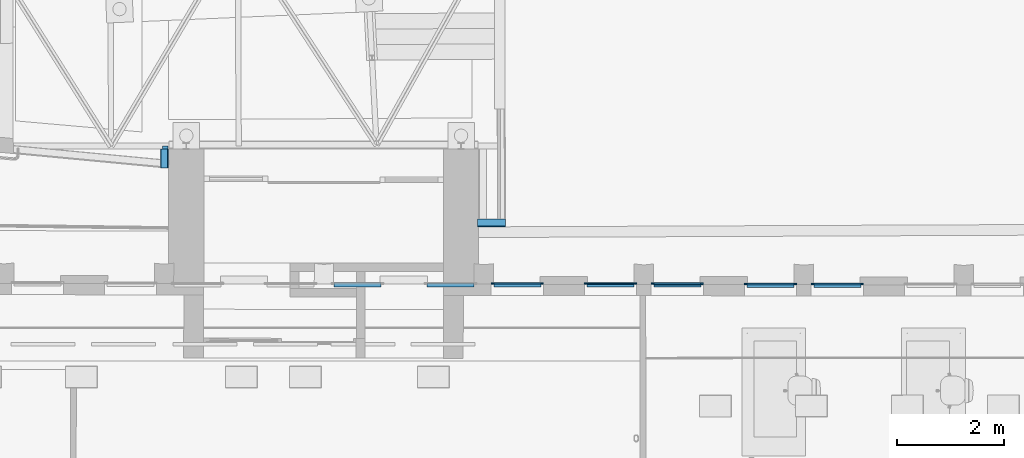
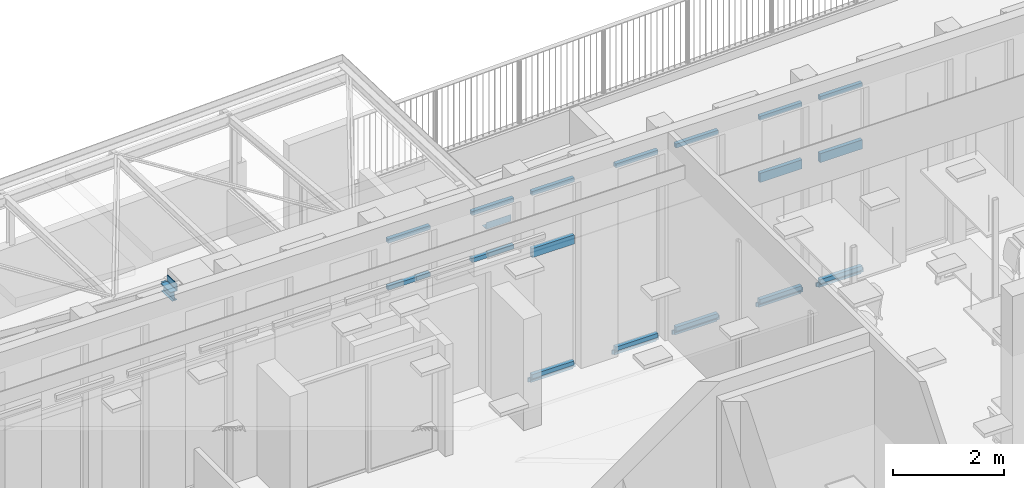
# One storey, part 18 of 128: 37 members, 3 beams, 12 elements without a shape of their own.
"""IFC2X3 building model written with IfcOpenShell, lengths in metres."""

from ifc_helpers import new_model, entity, si_unit, converted_unit, derived_unit, direction, frame, frame_2d, origin, origin_2d_with_axis, place, context, subcontext, project, spatial, polyline, circle_curve, parameter, trimmed, segment, composite_curve, rectangle, i_section, outline, extrude, source, transform, mapped, material, type_object, type_shapes, element, aggregate, save


model = new_model("IFC2X3")

# Units and contexts
model_context = context("Model", 3, precision=1e-05, world=origin(), true_north=direction((6.123031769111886e-17, 1.0)))
body_context = subcontext(model_context, "Body", "Model", "MODEL_VIEW")
ifc_project = project(units=[si_unit("LENGTHUNIT", "METRE"), si_unit("AREAUNIT", "SQUARE_METRE"), converted_unit("PLANEANGLEUNIT", "DEGREE", entity("IfcPlaneAngleMeasure", 0.017453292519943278), si_unit("PLANEANGLEUNIT", "RADIAN"), dimensions=[0, 0, 0, 0, 0, 0, 0]), derived_unit("THERMALTRANSMITTANCEUNIT", [(si_unit("MASSUNIT", "GRAM", prefix="KILO"), 1), (si_unit("THERMODYNAMICTEMPERATUREUNIT", "KELVIN"), -1), (si_unit("TIMEUNIT", "SECOND"), -3)])], contexts=[model_context])

# Site, building, storey
site_placement = place(None, origin())
site = spatial("IfcSite", under=ifc_project, at=site_placement, Name="Default", CompositionType="ELEMENT")
building_placement = place(site_placement, origin())
building = spatial("IfcBuilding", under=site, at=building_placement, CompositionType="ELEMENT")
storey_placement = place(building_placement, origin())
storey = spatial("IfcBuildingStorey", under=building, at=storey_placement, Name="00_RDC CAF", CompositionType="ELEMENT", Elevation=2.4982504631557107e-13)

# Curtain wall, member
curtain_wall_type_1 = type_object("IfcCurtainWallType", Name="Mur-rideau:FRi.Ext.30mm RDC", PredefinedType="NOTDEFINED")
curtain_wall_1_placement = place(storey_placement, origin())
curtain_wall_1 = element("IfcCurtainWall", 1, at=curtain_wall_1_placement, inside=storey, type_object=curtain_wall_type_1, Name="Mur-rideau:FRi.Ext.30mm RDC", ObjectType="Mur-rideau:FRi.Ext.30mm RDC")
ifc_material_1 = material(Name="ARC - M.Ex - Blanc")
member_type_1 = type_object("IfcMemberType", Name="Meneau rectangulaire:F.Ri.M_Ext_Rectangulaire_200x80mm", PredefinedType="MULLION", material=ifc_material_1)
shared_shape_1 = source(origin(), body_context, "Body", "SweptSolid", [
    extrude(rectangle(XDim=0.2, YDim=0.07999999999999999, at=origin_2d_with_axis()), frame((0.0, 0.025, -0.8799999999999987), z_axis=(0.0, 0.0, 1.0), x_axis=(-1.0, 0.0, 0.0)), (0.0, 0.0, 1.0), 0.8799999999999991),
])
type_shapes(member_type_1, [shared_shape_1])
member_1_placement = place(curtain_wall_1_placement, frame((31.815992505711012, 144.1441369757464, 2.7689999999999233), z_axis=(1.0, 0.0, 0.0), x_axis=(0.0, 0.0, 1.0)))
member_1 = element("IfcMember", 2, at=member_1_placement, type_object=member_type_1, material=ifc_material_1, Name="Meneau rectangulaire:F.Ri.M_Ext_Rectangulaire_200x80mm", ObjectType="Meneau rectangulaire:F.Ri.M_Ext_Rectangulaire_200x80mm", context=body_context, shape_type="MappedRepresentation", body=[
    mapped(shared_shape_1, transform((0.0, 0.0, 0.0), scale=1.0)),
])

curtain_wall_2_placement = place(storey_placement, origin())
curtain_wall_2 = element("IfcCurtainWall", 3, at=curtain_wall_2_placement, inside=storey, type_object=curtain_wall_type_1, Name="Mur-rideau:FRi.Ext.30mm RDC", ObjectType="Mur-rideau:FRi.Ext.30mm RDC")
member_2_placement = place(curtain_wall_2_placement, frame((36.56235782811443, 144.13667239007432, 2.7689999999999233), z_axis=(1.0, 0.0, 0.0), x_axis=(0.0, 0.0, 1.0)))
member_2 = element("IfcMember", 4, at=member_2_placement, type_object=member_type_1, material=ifc_material_1, Name="Meneau rectangulaire:F.Ri.M_Ext_Rectangulaire_200x80mm", ObjectType="Meneau rectangulaire:F.Ri.M_Ext_Rectangulaire_200x80mm", context=body_context, shape_type="MappedRepresentation", body=[
    mapped(shared_shape_1, transform((0.0, 0.0, 0.0), scale=1.0)),
])

curtain_wall_3_placement = place(storey_placement, origin())
curtain_wall_3 = element("IfcCurtainWall", 5, at=curtain_wall_3_placement, inside=storey, type_object=curtain_wall_type_1, Name="Mur-rideau:FRi.Ext.30mm RDC", ObjectType="Mur-rideau:FRi.Ext.30mm RDC")
member_3_placement = place(curtain_wall_3_placement, frame((37.815979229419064, 144.13470082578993, 2.7689999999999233), z_axis=(1.0, 0.0, 0.0), x_axis=(0.0, 0.0, 1.0)))
member_3 = element("IfcMember", 6, at=member_3_placement, type_object=member_type_1, material=ifc_material_1, Name="Meneau rectangulaire:F.Ri.M_Ext_Rectangulaire_200x80mm", ObjectType="Meneau rectangulaire:F.Ri.M_Ext_Rectangulaire_200x80mm", context=body_context, shape_type="MappedRepresentation", body=[
    mapped(shared_shape_1, transform((0.0, 0.0, 0.0), scale=1.0)),
])

# Member
member_type_2 = type_object("IfcMemberType", Name="Meneau rectangulaire:F.Ri.M_Ext_Rectangulaire_90x80mm", PredefinedType="MULLION", material=ifc_material_1)
shared_shape_2 = source(origin(), body_context, "Body", "SweptSolid", [
    extrude(rectangle(XDim=0.09, YDim=0.07999999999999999, at=origin_2d_with_axis()), frame((-0.045, 0.025, -0.8799999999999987), z_axis=(0.0, 0.0, 1.0), x_axis=(-1.0, 0.0, 0.0)), (0.0, 0.0, 1.0), 0.8799999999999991),
])
type_shapes(member_type_2, [shared_shape_2])
member_4_placement = place(curtain_wall_1_placement, frame((31.815992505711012, 144.1441369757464, 4.127999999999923), z_axis=(1.0, 0.0, 0.0), x_axis=(0.0, 0.0, 1.0)))
member_4 = element("IfcMember", 7, at=member_4_placement, type_object=member_type_2, material=ifc_material_1, Name="Meneau rectangulaire:F.Ri.M_Ext_Rectangulaire_90x80mm", ObjectType="Meneau rectangulaire:F.Ri.M_Ext_Rectangulaire_90x80mm", context=body_context, shape_type="MappedRepresentation", body=[
    mapped(shared_shape_2, transform((0.0, 0.0, 0.0), scale=1.0)),
])

# Curtain wall, member
curtain_wall_4_placement = place(storey_placement, origin())
curtain_wall_4 = element("IfcCurtainWall", 8, at=curtain_wall_4_placement, inside=storey, type_object=curtain_wall_type_1, Name="Mur-rideau:FRi.Ext.30mm RDC", ObjectType="Mur-rideau:FRi.Ext.30mm RDC")
member_5_placement = place(curtain_wall_4_placement, frame((33.5623644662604, 144.14139046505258, 4.127999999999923), z_axis=(1.0, 0.0, 0.0), x_axis=(0.0, 0.0, 1.0)))
member_5 = element("IfcMember", 9, at=member_5_placement, type_object=member_type_2, material=ifc_material_1, Name="Meneau rectangulaire:F.Ri.M_Ext_Rectangulaire_90x80mm", ObjectType="Meneau rectangulaire:F.Ri.M_Ext_Rectangulaire_90x80mm", context=body_context, shape_type="MappedRepresentation", body=[
    mapped(shared_shape_2, transform((0.0, 0.0, 0.0), scale=1.0)),
])

curtain_wall_5_placement = place(storey_placement, origin())
curtain_wall_5 = element("IfcCurtainWall", 10, at=curtain_wall_5_placement, inside=storey, type_object=curtain_wall_type_1, Name="Mur-rideau:FRi.Ext.30mm RDC", ObjectType="Mur-rideau:FRi.Ext.30mm RDC")
member_6_placement = place(curtain_wall_5_placement, frame((34.81598586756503, 144.13941890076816, 4.127999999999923), z_axis=(1.0, 0.0, 0.0), x_axis=(0.0, 0.0, 1.0)))
member_6 = element("IfcMember", 11, at=member_6_placement, type_object=member_type_2, material=ifc_material_1, Name="Meneau rectangulaire:F.Ri.M_Ext_Rectangulaire_90x80mm", ObjectType="Meneau rectangulaire:F.Ri.M_Ext_Rectangulaire_90x80mm", context=body_context, shape_type="MappedRepresentation", body=[
    mapped(shared_shape_2, transform((0.0, 0.0, 0.0), scale=1.0)),
])

# Member
member_7_placement = place(curtain_wall_2_placement, frame((36.56235782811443, 144.13667239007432, 4.127999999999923), z_axis=(1.0, 0.0, 0.0), x_axis=(0.0, 0.0, 1.0)))
member_7 = element("IfcMember", 12, at=member_7_placement, type_object=member_type_2, material=ifc_material_1, Name="Meneau rectangulaire:F.Ri.M_Ext_Rectangulaire_90x80mm", ObjectType="Meneau rectangulaire:F.Ri.M_Ext_Rectangulaire_90x80mm", context=body_context, shape_type="MappedRepresentation", body=[
    mapped(shared_shape_2, transform((0.0, 0.0, 0.0), scale=1.0)),
])

member_8_placement = place(curtain_wall_3_placement, frame((37.815979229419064, 144.13470082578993, 4.127999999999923), z_axis=(1.0, 0.0, 0.0), x_axis=(0.0, 0.0, 1.0)))
member_8 = element("IfcMember", 13, at=member_8_placement, type_object=member_type_2, material=ifc_material_1, Name="Meneau rectangulaire:F.Ri.M_Ext_Rectangulaire_90x80mm", ObjectType="Meneau rectangulaire:F.Ri.M_Ext_Rectangulaire_90x80mm", context=body_context, shape_type="MappedRepresentation", body=[
    mapped(shared_shape_2, transform((0.0, 0.0, 0.0), scale=1.0)),
])

# Curtain wall, member
curtain_wall_6_placement = place(storey_placement, origin())
curtain_wall_6 = element("IfcCurtainWall", 14, at=curtain_wall_6_placement, inside=storey, type_object=curtain_wall_type_1, Name="Mur-rideau:FRi.Ext.30mm RDC", ObjectType="Mur-rideau:FRi.Ext.30mm RDC")
member_9_placement = place(curtain_wall_6_placement, frame((28.815999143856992, 144.1441369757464, 4.127999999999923), z_axis=(1.0, 0.0, 0.0), x_axis=(0.0, 0.0, 1.0)))
member_9 = element("IfcMember", 15, at=member_9_placement, type_object=member_type_2, material=ifc_material_1, Name="Meneau rectangulaire:F.Ri.M_Ext_Rectangulaire_90x80mm", ObjectType="Meneau rectangulaire:F.Ri.M_Ext_Rectangulaire_90x80mm", context=body_context, shape_type="MappedRepresentation", body=[
    mapped(shared_shape_2, transform((0.0, 0.0, 0.0), scale=1.0)),
])

curtain_wall_7_placement = place(storey_placement, origin())
curtain_wall_7 = element("IfcCurtainWall", 16, at=curtain_wall_7_placement, inside=storey, type_object=curtain_wall_type_1, Name="Mur-rideau:FRi.Ext.30mm RDC", ObjectType="Mur-rideau:FRi.Ext.30mm RDC")
member_10_placement = place(curtain_wall_7_placement, frame((30.562371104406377, 144.14139046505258, 4.127999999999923), z_axis=(1.0, 0.0, 0.0), x_axis=(0.0, 0.0, 1.0)))
member_10 = element("IfcMember", 17, at=member_10_placement, type_object=member_type_2, material=ifc_material_1, Name="Meneau rectangulaire:F.Ri.M_Ext_Rectangulaire_90x80mm", ObjectType="Meneau rectangulaire:F.Ri.M_Ext_Rectangulaire_90x80mm", context=body_context, shape_type="MappedRepresentation", body=[
    mapped(shared_shape_2, transform((0.0, 0.0, 0.0), scale=1.0)),
])

# Member
member_type_3 = type_object("IfcMemberType", Name="Meneau rectangulaire:F.Ri.M_Ext_Rectangulaire_90x80mm", PredefinedType="MULLION", material=ifc_material_1)
shared_shape_3 = source(origin(), body_context, "Body", "SweptSolid", [
    extrude(rectangle(XDim=0.09, YDim=0.07999999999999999, at=origin_2d_with_axis()), frame((-0.045, 0.025, -0.8799999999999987), z_axis=(0.0, 0.0, 1.0), x_axis=(-1.0, 0.0, 0.0)), (0.0, 0.0, 1.0), 0.8799999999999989),
])
type_shapes(member_type_3, [shared_shape_3])
member_11_placement = place(curtain_wall_1_placement, frame((30.935993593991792, 144.14552094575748, 0.0), z_axis=(-1.0, 0.0, 0.0), x_axis=(0.0, 0.0, -1.0)))
member_11 = element("IfcMember", 18, at=member_11_placement, type_object=member_type_3, material=ifc_material_1, Name="Meneau rectangulaire:F.Ri.M_Ext_Rectangulaire_90x80mm", ObjectType="Meneau rectangulaire:F.Ri.M_Ext_Rectangulaire_90x80mm", context=body_context, shape_type="MappedRepresentation", body=[
    mapped(shared_shape_3, transform((0.0, 0.0, 0.0), scale=1.0)),
])

aggregate(curtain_wall_1, [member_1, member_4, member_11])

member_12_placement = place(curtain_wall_4_placement, frame((32.68236555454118, 144.14277443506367, 0.0), z_axis=(-1.0, 0.0, 0.0), x_axis=(0.0, 0.0, -1.0)))
member_12 = element("IfcMember", 19, at=member_12_placement, type_object=member_type_3, material=ifc_material_1, Name="Meneau rectangulaire:F.Ri.M_Ext_Rectangulaire_90x80mm", ObjectType="Meneau rectangulaire:F.Ri.M_Ext_Rectangulaire_90x80mm", context=body_context, shape_type="MappedRepresentation", body=[
    mapped(shared_shape_3, transform((0.0, 0.0, 0.0), scale=1.0)),
])

aggregate(curtain_wall_4, [member_5, member_12])

member_13_placement = place(curtain_wall_5_placement, frame((33.93598695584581, 144.14080287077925, 0.0), z_axis=(-1.0, 0.0, 0.0), x_axis=(0.0, 0.0, -1.0)))
member_13 = element("IfcMember", 20, at=member_13_placement, type_object=member_type_3, material=ifc_material_1, Name="Meneau rectangulaire:F.Ri.M_Ext_Rectangulaire_90x80mm", ObjectType="Meneau rectangulaire:F.Ri.M_Ext_Rectangulaire_90x80mm", context=body_context, shape_type="MappedRepresentation", body=[
    mapped(shared_shape_3, transform((0.0, 0.0, 0.0), scale=1.0)),
])

aggregate(curtain_wall_5, [member_6, member_13])

member_14_placement = place(curtain_wall_2_placement, frame((35.6823589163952, 144.13805636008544, 0.0), z_axis=(-1.0, 0.0, 0.0), x_axis=(0.0, 0.0, -1.0)))
member_14 = element("IfcMember", 21, at=member_14_placement, type_object=member_type_3, material=ifc_material_1, Name="Meneau rectangulaire:F.Ri.M_Ext_Rectangulaire_90x80mm", ObjectType="Meneau rectangulaire:F.Ri.M_Ext_Rectangulaire_90x80mm", context=body_context, shape_type="MappedRepresentation", body=[
    mapped(shared_shape_3, transform((0.0, 0.0, 0.0), scale=1.0)),
])

aggregate(curtain_wall_2, [member_2, member_7, member_14])

member_15_placement = place(curtain_wall_3_placement, frame((36.93598031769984, 144.13608479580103, 0.0), z_axis=(-1.0, 0.0, 0.0), x_axis=(0.0, 0.0, -1.0)))
member_15 = element("IfcMember", 22, at=member_15_placement, type_object=member_type_3, material=ifc_material_1, Name="Meneau rectangulaire:F.Ri.M_Ext_Rectangulaire_90x80mm", ObjectType="Meneau rectangulaire:F.Ri.M_Ext_Rectangulaire_90x80mm", context=body_context, shape_type="MappedRepresentation", body=[
    mapped(shared_shape_3, transform((0.0, 0.0, 0.0), scale=1.0)),
])

aggregate(curtain_wall_3, [member_3, member_8, member_15])

member_16_placement = place(curtain_wall_6_placement, frame((27.93600023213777, 144.14552094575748, 3.0), z_axis=(-1.0, 0.0, 0.0), x_axis=(0.0, 0.0, -1.0)))
member_16 = element("IfcMember", 23, at=member_16_placement, type_object=member_type_3, material=ifc_material_1, Name="Meneau rectangulaire:F.Ri.M_Ext_Rectangulaire_90x80mm", ObjectType="Meneau rectangulaire:F.Ri.M_Ext_Rectangulaire_90x80mm", context=body_context, shape_type="MappedRepresentation", body=[
    mapped(shared_shape_3, transform((0.0, 0.0, 0.0), scale=1.0)),
])

aggregate(curtain_wall_6, [member_9, member_16])

member_17_placement = place(curtain_wall_7_placement, frame((29.682372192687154, 144.14277443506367, 3.0), z_axis=(-1.0, 0.0, 0.0), x_axis=(0.0, 0.0, -1.0)))
member_17 = element("IfcMember", 24, at=member_17_placement, type_object=member_type_3, material=ifc_material_1, Name="Meneau rectangulaire:F.Ri.M_Ext_Rectangulaire_90x80mm", ObjectType="Meneau rectangulaire:F.Ri.M_Ext_Rectangulaire_90x80mm", context=body_context, shape_type="MappedRepresentation", body=[
    mapped(shared_shape_3, transform((0.0, 0.0, 0.0), scale=1.0)),
])

aggregate(curtain_wall_7, [member_10, member_17])

# Curtain wall, member
curtain_wall_type_2 = type_object("IfcCurtainWallType", Name="Mur-rideau:FRi.Ext.30mm Etages", PredefinedType="NOTDEFINED")
curtain_wall_8_placement = place(storey_placement, origin())
curtain_wall_8 = element("IfcCurtainWall", 25, at=curtain_wall_8_placement, inside=storey, type_object=curtain_wall_type_2, Name="Mur-rideau:FRi.Ext.30mm Etages", ObjectType="Mur-rideau:FRi.Ext.30mm Etages")
member_type_4 = type_object("IfcMemberType", Name="Meneau rectangulaire:F.Ri.M_Ext_Rectangulaire_50x30mm", PredefinedType="MULLION", material=ifc_material_1)
shared_shape_4 = source(origin(), body_context, "Body", "SweptSolid", [
    extrude(rectangle(XDim=0.05, YDim=0.029999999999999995, at=origin_2d_with_axis()), frame((0.0, 0.0, -0.8800000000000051), z_axis=(0.0, 0.0, 1.0), x_axis=(-1.0, 0.0, 0.0)), (0.0, 0.0, 1.0), 0.8800000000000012),
])
type_shapes(member_type_4, [shared_shape_4])
member_18_placement = place(curtain_wall_8_placement, frame((31.81599250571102, 144.14413697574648, -0.087000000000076), z_axis=(1.0, 0.0, 0.0), x_axis=(0.0, 0.0, 1.0)))
member_18 = element("IfcMember", 26, at=member_18_placement, type_object=member_type_4, material=ifc_material_1, Name="Meneau rectangulaire:F.Ri.M_Ext_Rectangulaire_50x30mm", ObjectType="Meneau rectangulaire:F.Ri.M_Ext_Rectangulaire_50x30mm", context=body_context, shape_type="MappedRepresentation", body=[
    mapped(shared_shape_4, transform((0.0, 0.0, 0.0), scale=1.0)),
])

curtain_wall_9_placement = place(storey_placement, origin())
curtain_wall_9 = element("IfcCurtainWall", 27, at=curtain_wall_9_placement, inside=storey, type_object=curtain_wall_type_2, Name="Mur-rideau:FRi.Ext.30mm Etages", ObjectType="Mur-rideau:FRi.Ext.30mm Etages")
member_19_placement = place(curtain_wall_9_placement, frame((34.81598586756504, 144.13941890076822, -0.087000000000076), z_axis=(1.0, 0.0, 0.0), x_axis=(0.0, 0.0, 1.0)))
member_19 = element("IfcMember", 28, at=member_19_placement, type_object=member_type_4, material=ifc_material_1, Name="Meneau rectangulaire:F.Ri.M_Ext_Rectangulaire_50x30mm", ObjectType="Meneau rectangulaire:F.Ri.M_Ext_Rectangulaire_50x30mm", context=body_context, shape_type="MappedRepresentation", body=[
    mapped(shared_shape_4, transform((0.0, 0.0, 0.0), scale=1.0)),
])

curtain_wall_10_placement = place(storey_placement, origin())
curtain_wall_10 = element("IfcCurtainWall", 29, at=curtain_wall_10_placement, inside=storey, type_object=curtain_wall_type_2, Name="Mur-rideau:FRi.Ext.30mm Etages", ObjectType="Mur-rideau:FRi.Ext.30mm Etages")
member_20_placement = place(curtain_wall_10_placement, frame((37.815979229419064, 144.13470082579, -0.087000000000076), z_axis=(1.0, 0.0, 0.0), x_axis=(0.0, 0.0, 1.0)))
member_20 = element("IfcMember", 30, at=member_20_placement, type_object=member_type_4, material=ifc_material_1, Name="Meneau rectangulaire:F.Ri.M_Ext_Rectangulaire_50x30mm", ObjectType="Meneau rectangulaire:F.Ri.M_Ext_Rectangulaire_50x30mm", context=body_context, shape_type="MappedRepresentation", body=[
    mapped(shared_shape_4, transform((0.0, 0.0, 0.0), scale=1.0)),
])

# Member
member_type_5 = type_object("IfcMemberType", Name="Meneau rectangulaire:F.Ri.M_Ext_Rectangulaire_50x30mm", PredefinedType="MULLION", material=ifc_material_1)
shared_shape_5 = source(origin(), body_context, "Body", "SweptSolid", [
    extrude(rectangle(XDim=0.05, YDim=0.03, at=origin_2d_with_axis()), frame((-0.025, 0.0, -0.8800000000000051), z_axis=(0.0, 0.0, 1.0), x_axis=(-1.0, 0.0, 0.0)), (0.0, 0.0, 1.0), 0.8800000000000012),
])
type_shapes(member_type_5, [shared_shape_5])
member_21_placement = place(curtain_wall_8_placement, frame((31.81599250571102, 144.14413697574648, 0.0), z_axis=(1.0, 0.0, 0.0), x_axis=(0.0, 0.0, 1.0)))
member_21 = element("IfcMember", 31, at=member_21_placement, type_object=member_type_5, material=ifc_material_1, Name="Meneau rectangulaire:F.Ri.M_Ext_Rectangulaire_50x30mm", ObjectType="Meneau rectangulaire:F.Ri.M_Ext_Rectangulaire_50x30mm", context=body_context, shape_type="MappedRepresentation", body=[
    mapped(shared_shape_5, transform((0.0, 0.0, 0.0), scale=1.0)),
])

member_22_placement = place(curtain_wall_9_placement, frame((34.81598586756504, 144.13941890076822, 0.0), z_axis=(1.0, 0.0, 0.0), x_axis=(0.0, 0.0, 1.0)))
member_22 = element("IfcMember", 32, at=member_22_placement, type_object=member_type_5, material=ifc_material_1, Name="Meneau rectangulaire:F.Ri.M_Ext_Rectangulaire_50x30mm", ObjectType="Meneau rectangulaire:F.Ri.M_Ext_Rectangulaire_50x30mm", context=body_context, shape_type="MappedRepresentation", body=[
    mapped(shared_shape_5, transform((0.0, 0.0, 0.0), scale=1.0)),
])

member_23_placement = place(curtain_wall_10_placement, frame((37.815979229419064, 144.13470082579, 0.0), z_axis=(1.0, 0.0, 0.0), x_axis=(0.0, 0.0, 1.0)))
member_23 = element("IfcMember", 33, at=member_23_placement, type_object=member_type_5, material=ifc_material_1, Name="Meneau rectangulaire:F.Ri.M_Ext_Rectangulaire_50x30mm", ObjectType="Meneau rectangulaire:F.Ri.M_Ext_Rectangulaire_50x30mm", context=body_context, shape_type="MappedRepresentation", body=[
    mapped(shared_shape_5, transform((0.0, 0.0, 0.0), scale=1.0)),
])

member_type_6 = type_object("IfcMemberType", Name="Meneau rectangulaire:F.Ri.M_Ext_Rectangulaire_50x30mm", PredefinedType="MULLION", material=ifc_material_1)
shared_shape_6 = source(origin(), body_context, "Body", "SweptSolid", [
    extrude(rectangle(XDim=0.05, YDim=0.03, at=origin_2d_with_axis()), frame((-0.025, 0.0, -0.08700000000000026), z_axis=(0.0, 0.0, 1.0), x_axis=(-1.0, 0.0, 0.0)), (0.0, 0.0, 1.0), 0.08700000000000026),
])
type_shapes(member_type_6, [shared_shape_6])
member_24_placement = place(curtain_wall_8_placement, frame((31.86599244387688, 144.14405834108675, -0.087000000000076), z_axis=(0.0, 0.0, -1.0), x_axis=(1.0, 0.0, 0.0)))
member_24 = element("IfcMember", 34, at=member_24_placement, type_object=member_type_6, material=ifc_material_1, Name="Meneau rectangulaire:F.Ri.M_Ext_Rectangulaire_50x30mm", ObjectType="Meneau rectangulaire:F.Ri.M_Ext_Rectangulaire_50x30mm", context=body_context, shape_type="MappedRepresentation", body=[
    mapped(shared_shape_6, transform((0.0, 0.0, 0.0), scale=1.0)),
])

member_25_placement = place(curtain_wall_9_placement, frame((34.8659858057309, 144.13934026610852, -0.087000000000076), z_axis=(0.0, 0.0, -1.0), x_axis=(1.0, 0.0, 0.0)))
member_25 = element("IfcMember", 35, at=member_25_placement, type_object=member_type_6, material=ifc_material_1, Name="Meneau rectangulaire:F.Ri.M_Ext_Rectangulaire_50x30mm", ObjectType="Meneau rectangulaire:F.Ri.M_Ext_Rectangulaire_50x30mm", context=body_context, shape_type="MappedRepresentation", body=[
    mapped(shared_shape_6, transform((0.0, 0.0, 0.0), scale=1.0)),
])

member_26_placement = place(curtain_wall_10_placement, frame((37.86597916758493, 144.13462219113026, -0.087000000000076), z_axis=(0.0, 0.0, -1.0), x_axis=(1.0, 0.0, 0.0)))
member_26 = element("IfcMember", 36, at=member_26_placement, type_object=member_type_6, material=ifc_material_1, Name="Meneau rectangulaire:F.Ri.M_Ext_Rectangulaire_50x30mm", ObjectType="Meneau rectangulaire:F.Ri.M_Ext_Rectangulaire_50x30mm", context=body_context, shape_type="MappedRepresentation", body=[
    mapped(shared_shape_6, transform((0.0, 0.0, 0.0), scale=1.0)),
])

member_type_7 = type_object("IfcMemberType", Name="Meneau rectangulaire:F.Ri.M_Ext_Rectangulaire_50x30mm", PredefinedType="MULLION", material=ifc_material_1)
shared_shape_7 = source(origin(), body_context, "Body", "SweptSolid", [
    extrude(rectangle(XDim=0.05, YDim=0.03, at=origin_2d_with_axis()), frame((-0.025, 0.0, -0.08700000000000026), z_axis=(0.0, 0.0, 1.0), x_axis=(-1.0, 0.0, 0.0)), (0.0, 0.0, 1.0), 0.08700000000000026),
])
type_shapes(member_type_7, [shared_shape_7])
member_27_placement = place(curtain_wall_8_placement, frame((30.88599365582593, 144.14559958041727, 0.0), z_axis=(0.0, 0.0, 1.0), x_axis=(-1.0, 0.0, 0.0)))
member_27 = element("IfcMember", 37, at=member_27_placement, type_object=member_type_7, material=ifc_material_1, Name="Meneau rectangulaire:F.Ri.M_Ext_Rectangulaire_50x30mm", ObjectType="Meneau rectangulaire:F.Ri.M_Ext_Rectangulaire_50x30mm", context=body_context, shape_type="MappedRepresentation", body=[
    mapped(shared_shape_7, transform((0.0, 0.0, 0.0), scale=1.0)),
])

aggregate(curtain_wall_8, [member_18, member_21, member_24, member_27])

member_28_placement = place(curtain_wall_9_placement, frame((33.88598701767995, 144.14088150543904, 0.0), z_axis=(0.0, 0.0, 1.0), x_axis=(-1.0, 0.0, 0.0)))
member_28 = element("IfcMember", 38, at=member_28_placement, type_object=member_type_7, material=ifc_material_1, Name="Meneau rectangulaire:F.Ri.M_Ext_Rectangulaire_50x30mm", ObjectType="Meneau rectangulaire:F.Ri.M_Ext_Rectangulaire_50x30mm", context=body_context, shape_type="MappedRepresentation", body=[
    mapped(shared_shape_7, transform((0.0, 0.0, 0.0), scale=1.0)),
])

aggregate(curtain_wall_9, [member_19, member_22, member_25, member_28])

member_29_placement = place(curtain_wall_10_placement, frame((36.88598037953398, 144.1361634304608, 0.0), z_axis=(0.0, 0.0, 1.0), x_axis=(-1.0, 0.0, 0.0)))
member_29 = element("IfcMember", 39, at=member_29_placement, type_object=member_type_7, material=ifc_material_1, Name="Meneau rectangulaire:F.Ri.M_Ext_Rectangulaire_50x30mm", ObjectType="Meneau rectangulaire:F.Ri.M_Ext_Rectangulaire_50x30mm", context=body_context, shape_type="MappedRepresentation", body=[
    mapped(shared_shape_7, transform((0.0, 0.0, 0.0), scale=1.0)),
])

aggregate(curtain_wall_10, [member_20, member_23, member_26, member_29])

# Curtain wall, member
curtain_wall_11_placement = place(storey_placement, origin())
curtain_wall_11 = element("IfcCurtainWall", 40, at=curtain_wall_11_placement, inside=storey, type_object=curtain_wall_type_2, Name="Mur-rideau:FRi.Ext.30mm Etages", ObjectType="Mur-rideau:FRi.Ext.30mm Etages")
member_type_8 = type_object("IfcMemberType", Name="Meneau rectangulaire:F.Ri.M_Ext_Rectangulaire_50x30mm", PredefinedType="MULLION", material=ifc_material_1)
shared_shape_8 = source(origin(), body_context, "Body", "SweptSolid", [
    extrude(rectangle(XDim=0.05, YDim=0.03, at=origin_2d_with_axis()), frame((0.0, 0.0, -0.8800000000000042), z_axis=(0.0, 0.0, 1.0), x_axis=(-1.0, 0.0, 0.0)), (0.0, 0.0, 1.0), 0.8800000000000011),
])
type_shapes(member_type_8, [shared_shape_8])
member_30_placement = place(curtain_wall_11_placement, frame((32.682339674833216, 144.1427744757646, -0.087000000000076), z_axis=(-1.0, 0.0, 0.0), x_axis=(0.0, 0.0, 1.0)))
member_30 = element("IfcMember", 41, at=member_30_placement, type_object=member_type_8, material=ifc_material_1, Name="Meneau rectangulaire:F.Ri.M_Ext_Rectangulaire_50x30mm", ObjectType="Meneau rectangulaire:F.Ri.M_Ext_Rectangulaire_50x30mm", context=body_context, shape_type="MappedRepresentation", body=[
    mapped(shared_shape_8, transform((0.0, 0.0, 0.0), scale=1.0)),
])

curtain_wall_12_placement = place(storey_placement, origin())
curtain_wall_12 = element("IfcCurtainWall", 42, at=curtain_wall_12_placement, inside=storey, type_object=curtain_wall_type_2, Name="Mur-rideau:FRi.Ext.30mm Etages", ObjectType="Mur-rideau:FRi.Ext.30mm Etages")
member_31_placement = place(curtain_wall_12_placement, frame((35.68233303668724, 144.13805640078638, -0.087000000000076), z_axis=(-1.0, 0.0, 0.0), x_axis=(0.0, 0.0, 1.0)))
member_31 = element("IfcMember", 43, at=member_31_placement, type_object=member_type_8, material=ifc_material_1, Name="Meneau rectangulaire:F.Ri.M_Ext_Rectangulaire_50x30mm", ObjectType="Meneau rectangulaire:F.Ri.M_Ext_Rectangulaire_50x30mm", context=body_context, shape_type="MappedRepresentation", body=[
    mapped(shared_shape_8, transform((0.0, 0.0, 0.0), scale=1.0)),
])

# Member
member_type_9 = type_object("IfcMemberType", Name="Meneau rectangulaire:F.Ri.M_Ext_Rectangulaire_50x30mm", PredefinedType="MULLION", material=ifc_material_1)
shared_shape_9 = source(origin(), body_context, "Body", "SweptSolid", [
    extrude(rectangle(XDim=0.05, YDim=0.03, at=origin_2d_with_axis()), frame((-0.025, 0.0, -0.8800000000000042), z_axis=(0.0, 0.0, 1.0), x_axis=(-1.0, 0.0, 0.0)), (0.0, 0.0, 1.0), 0.8800000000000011),
])
type_shapes(member_type_9, [shared_shape_9])
member_32_placement = place(curtain_wall_11_placement, frame((32.682339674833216, 144.1427744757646, 0.0), z_axis=(-1.0, 0.0, 0.0), x_axis=(0.0, 0.0, 1.0)))
member_32 = element("IfcMember", 44, at=member_32_placement, type_object=member_type_9, material=ifc_material_1, Name="Meneau rectangulaire:F.Ri.M_Ext_Rectangulaire_50x30mm", ObjectType="Meneau rectangulaire:F.Ri.M_Ext_Rectangulaire_50x30mm", context=body_context, shape_type="MappedRepresentation", body=[
    mapped(shared_shape_9, transform((0.0, 0.0, 0.0), scale=1.0)),
])

member_33_placement = place(curtain_wall_12_placement, frame((35.68233303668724, 144.13805640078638, 0.0), z_axis=(-1.0, 0.0, 0.0), x_axis=(0.0, 0.0, 1.0)))
member_33 = element("IfcMember", 45, at=member_33_placement, type_object=member_type_9, material=ifc_material_1, Name="Meneau rectangulaire:F.Ri.M_Ext_Rectangulaire_50x30mm", ObjectType="Meneau rectangulaire:F.Ri.M_Ext_Rectangulaire_50x30mm", context=body_context, shape_type="MappedRepresentation", body=[
    mapped(shared_shape_9, transform((0.0, 0.0, 0.0), scale=1.0)),
])

member_type_10 = type_object("IfcMemberType", Name="Meneau rectangulaire:F.Ri.M_Ext_Rectangulaire_50x30mm", PredefinedType="MULLION", material=ifc_material_1)
shared_shape_10 = source(origin(), body_context, "Body", "SweptSolid", [
    extrude(rectangle(XDim=0.05, YDim=0.03, at=origin_2d_with_axis()), frame((-0.025, 0.0, -0.08700000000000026), z_axis=(0.0, 0.0, 1.0), x_axis=(-1.0, 0.0, 0.0)), (0.0, 0.0, 1.0), 0.08700000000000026),
])
type_shapes(member_type_10, [shared_shape_10])
member_34_placement = place(curtain_wall_11_placement, frame((32.632339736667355, 144.14285311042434, -0.087000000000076), z_axis=(0.0, 0.0, -1.0), x_axis=(-1.0, 0.0, 0.0)))
member_34 = element("IfcMember", 46, at=member_34_placement, type_object=member_type_10, material=ifc_material_1, Name="Meneau rectangulaire:F.Ri.M_Ext_Rectangulaire_50x30mm", ObjectType="Meneau rectangulaire:F.Ri.M_Ext_Rectangulaire_50x30mm", context=body_context, shape_type="MappedRepresentation", body=[
    mapped(shared_shape_10, transform((0.0, 0.0, 0.0), scale=1.0)),
])

member_35_placement = place(curtain_wall_12_placement, frame((35.63233309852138, 144.1381350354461, -0.087000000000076), z_axis=(0.0, 0.0, -1.0), x_axis=(-1.0, 0.0, 0.0)))
member_35 = element("IfcMember", 47, at=member_35_placement, type_object=member_type_10, material=ifc_material_1, Name="Meneau rectangulaire:F.Ri.M_Ext_Rectangulaire_50x30mm", ObjectType="Meneau rectangulaire:F.Ri.M_Ext_Rectangulaire_50x30mm", context=body_context, shape_type="MappedRepresentation", body=[
    mapped(shared_shape_10, transform((0.0, 0.0, 0.0), scale=1.0)),
])

member_type_11 = type_object("IfcMemberType", Name="Meneau rectangulaire:F.Ri.M_Ext_Rectangulaire_50x30mm", PredefinedType="MULLION", material=ifc_material_1)
shared_shape_11 = source(origin(), body_context, "Body", "SweptSolid", [
    extrude(rectangle(XDim=0.05, YDim=0.03, at=origin_2d_with_axis()), frame((-0.025, 0.0, -0.08700000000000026), z_axis=(0.0, 0.0, 1.0), x_axis=(-1.0, 0.0, 0.0)), (0.0, 0.0, 1.0), 0.08700000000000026),
])
type_shapes(member_type_11, [shared_shape_11])
member_36_placement = place(curtain_wall_11_placement, frame((33.612338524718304, 144.14131187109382, 0.0)))
member_36 = element("IfcMember", 48, at=member_36_placement, type_object=member_type_11, material=ifc_material_1, Name="Meneau rectangulaire:F.Ri.M_Ext_Rectangulaire_50x30mm", ObjectType="Meneau rectangulaire:F.Ri.M_Ext_Rectangulaire_50x30mm", context=body_context, shape_type="MappedRepresentation", body=[
    mapped(shared_shape_11, transform((0.0, 0.0, 0.0), scale=1.0)),
])

aggregate(curtain_wall_11, [member_30, member_32, member_34, member_36])

member_37_placement = place(curtain_wall_12_placement, frame((36.61233188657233, 144.1365937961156, 0.0)))
member_37 = element("IfcMember", 49, at=member_37_placement, type_object=member_type_11, material=ifc_material_1, Name="Meneau rectangulaire:F.Ri.M_Ext_Rectangulaire_50x30mm", ObjectType="Meneau rectangulaire:F.Ri.M_Ext_Rectangulaire_50x30mm", context=body_context, shape_type="MappedRepresentation", body=[
    mapped(shared_shape_11, transform((0.0, 0.0, 0.0), scale=1.0)),
])

aggregate(curtain_wall_12, [member_31, member_33, member_35, member_37])

# Beams
ifc_material_2 = material(Name="Acier structurel - S235")
beam_type_1 = type_object("IfcBeamType", Name="IPE:IPE200", PredefinedType="BEAM")
beam_1_placement = place(storey_placement, frame((24.774872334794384, 146.72324812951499, 2.718156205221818), z_axis=(0.0, 0.030999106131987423, 0.9995194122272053), x_axis=(0.0, -0.9995194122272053, 0.030999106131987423)))
element("IfcBeam", 50, at=beam_1_placement, inside=storey, type_object=beam_type_1, material=ifc_material_2, Name="IPE:IPE200", ObjectType="IPE:IPE200", context=body_context, shape_type="SweptSolid", body=[
    extrude(i_section(OverallWidth=0.09999999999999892, OverallDepth=0.2000000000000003, WebThickness=0.0055999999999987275, FlangeThickness=0.008500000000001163, FilletRadius=0.012000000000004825, at=frame_2d((5.412337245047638e-16, 2.1649348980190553e-15), x_axis=(0.0, 1.0))), frame((0.003506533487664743, 0.0, -0.1000000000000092), z_axis=(1.0, 0.0, 0.0), x_axis=(0.0, 0.0, -1.0)), (0.0, 0.0, 1.0), 0.403890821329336),
])
beam_type_2 = type_object("IfcBeamType", Name="Cornière à ailes égales:L150x10", PredefinedType="BEAM")
beam_2_placement = place(storey_placement, frame((30.650556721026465, 145.24588781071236, 2.8681714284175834), z_axis=(0.0, 0.0, 1.0), x_axis=(0.9999912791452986, 0.004176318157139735, 0.0)))
element("IfcBeam", 51, at=beam_2_placement, inside=storey, type_object=beam_type_2, material=ifc_material_2, Name="Cornière à ailes égales:L150x10", ObjectType="Cornière à ailes égales:L150x10", context=body_context, shape_type="SweptSolid", body=[
    extrude(outline(composite_curve([segment(polyline([(-0.09555555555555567, -0.05444444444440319), (0.05444444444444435, -0.05444444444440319)]), True, "CONTINUOUS"), segment(polyline([(0.05444444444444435, -0.05444444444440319), (0.054444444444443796, 0.09555555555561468)]), True, "CONTINUOUS"), segment(polyline([(0.054444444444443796, 0.09555555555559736), (0.05244444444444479, 0.09555555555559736)]), True, "CONTINUOUS"), segment(trimmed(circle_curve(frame_2d((0.05244444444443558, 0.08755555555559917), x_axis=(0.0, 1.0)), 0.007999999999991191), [parameter(0.0)], [parameter(90.00000000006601)], True, "PARAMETER"), True, "CONTINUOUS"), segment(polyline([(0.04444444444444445, 0.08755555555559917), (0.04444444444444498, -0.0284444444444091)]), True, "CONTINUOUS"), segment(trimmed(circle_curve(frame_2d((0.028444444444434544, -0.0284444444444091), x_axis=(1.0, 0.0)), 0.01600000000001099), [parameter(270.0000000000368)], [parameter(0.0)], True, "PARAMETER"), False, "CONTINUOUS"), segment(polyline([(0.02844444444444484, -0.04444444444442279), (-0.08755555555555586, -0.04444444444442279)]), True, "CONTINUOUS"), segment(trimmed(circle_curve(frame_2d((-0.08755555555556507, -0.052444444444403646), x_axis=(0.0, 1.0)), 0.00799999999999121), [parameter(0.0)], [parameter(90.00000000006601)], True, "PARAMETER"), True, "CONTINUOUS"), segment(polyline([(-0.09555555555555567, -0.052444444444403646), (-0.09555555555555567, -0.05444444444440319)]), True, "CONTINUOUS")], self_intersect=False)), frame((-0.02155314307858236, 0.014144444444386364, -0.09555555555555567), z_axis=(1.0, 0.0, 0.0), x_axis=(0.0, 0.0, -1.0)), (0.0, 0.0, 1.0), 0.5227516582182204),
])
beam_3_placement = place(storey_placement, frame((24.794572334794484, 146.30825883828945, 2.881098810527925), z_axis=(0.0, 0.030999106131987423, 0.9995194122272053), x_axis=(0.0, 0.9995194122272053, -0.030999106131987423)))
element("IfcBeam", 52, at=beam_3_placement, inside=storey, type_object=beam_type_2, material=ifc_material_2, Name="Cornière à ailes égales:L150x10", ObjectType="Cornière à ailes égales:L150x10", context=body_context, shape_type="SweptSolid", body=[
    extrude(outline(composite_curve([segment(polyline([(-0.09555555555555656, -0.05444444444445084), (0.05444444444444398, -0.05444444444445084)]), True, "CONTINUOUS"), segment(polyline([(0.05444444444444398, -0.05444444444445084), (0.054444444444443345, 0.09555555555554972)]), True, "CONTINUOUS"), segment(polyline([(0.054444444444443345, 0.09555555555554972), (0.05244444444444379, 0.09555555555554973)]), True, "CONTINUOUS"), segment(trimmed(circle_curve(frame_2d((0.05244444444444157, 0.08755555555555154), x_axis=(0.0, 1.0)), 0.007999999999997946), [parameter(0.0)], [parameter(90.0000000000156)], True, "PARAMETER"), True, "CONTINUOUS"), segment(polyline([(0.04444444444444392, 0.08755555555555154), (0.04444444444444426, -0.028444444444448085)]), True, "CONTINUOUS"), segment(trimmed(circle_curve(frame_2d((0.028444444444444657, -0.028444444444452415), x_axis=(1.0, 0.0)), 0.0160000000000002), [parameter(269.99999999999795)], [parameter(0.0)], True, "PARAMETER"), False, "CONTINUOUS"), segment(polyline([(0.028444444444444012, -0.044444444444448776), (-0.0875555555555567, -0.04444444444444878)]), True, "CONTINUOUS"), segment(trimmed(circle_curve(frame_2d((-0.08755555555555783, -0.05244444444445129), x_axis=(0.0, 1.0)), 0.007999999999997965), [parameter(0.0)], [parameter(90.00000000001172)], True, "PARAMETER"), True, "CONTINUOUS"), segment(polyline([(-0.09555555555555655, -0.052444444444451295), (-0.09555555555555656, -0.05444444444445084)]), True, "CONTINUOUS")], self_intersect=False)), frame((0.003506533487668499, 0.014144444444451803, -0.0955555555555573), z_axis=(1.0, 0.0, 0.0), x_axis=(0.0, 0.0, -1.0)), (0.0, 0.0, 1.0), 0.3563596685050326),
])

save(model, "model.ifc")
